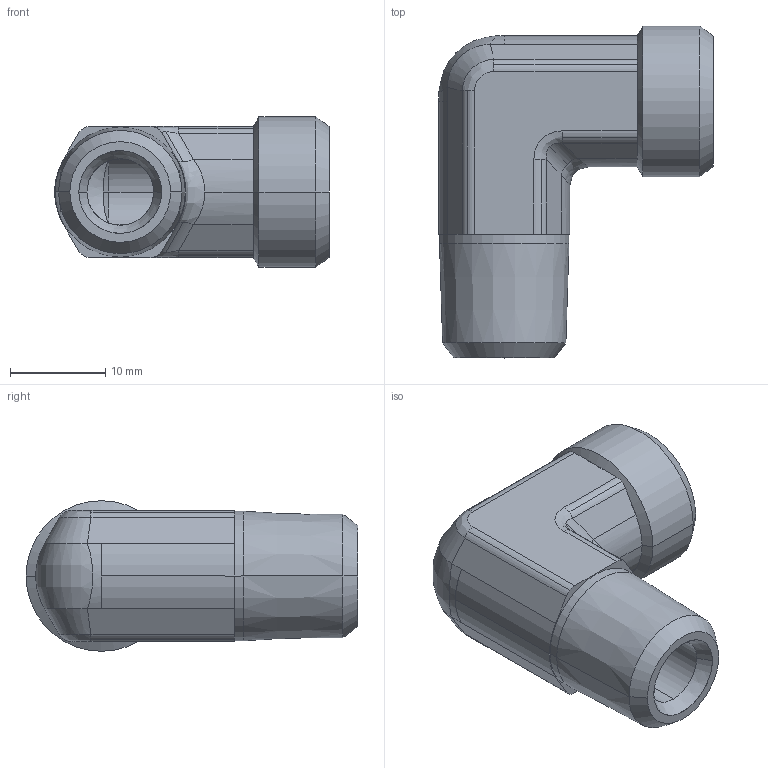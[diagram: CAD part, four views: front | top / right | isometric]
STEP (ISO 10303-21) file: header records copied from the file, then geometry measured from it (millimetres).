
FILE_DESCRIPTION((''),'2;1');
FILE_NAME('102006.stp','2007-10-30T16:29:31',(''),(''),'AutoCAD STEP 2000i','AutoCAD 2000i',', , ');
FILE_SCHEMA(('CONFIG_CONTROL_DESIGN'));
Length unit declared in the file: millimetre
Products named in the file (2): 102006.0; 3090#0
Assembly tree (1 placements, depth 2):
  102006.0
    3090#0
Bounding box: 28.9 x 34.92 x 15.85 mm (x, y, z)
Volume: 5242.9 mm3; surface area: 3552 mm2
Topology: 1 solids, 1 shells, 97 faces, 230 edges, 139 vertices
Faces by surface type: cylinder 42, plane 22, cone 19, bspline 14
Entity records: 3698 total; most frequent: CARTESIAN_POINT 1362, DIRECTION 485, ORIENTED_EDGE 460, EDGE_CURVE 230, AXIS2_PLACEMENT_3D 198, VERTEX_POINT 139, CIRCLE 103, EDGE_LOOP 103
